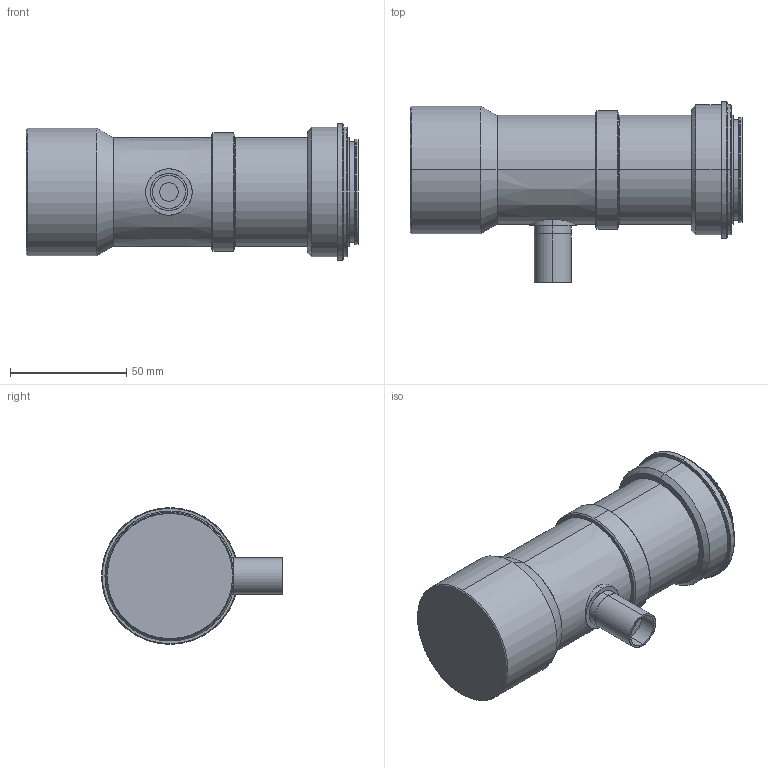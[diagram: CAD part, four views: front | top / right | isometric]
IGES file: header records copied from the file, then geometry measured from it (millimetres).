
Start section: SolidWorks IGES file using analytic representation for surfaces
Bounding box: 143.1 x 78 x 59 mm (x, y, z)
Surface area: 31295.2 mm2 (no closed solid volume)
Topology: 0 solids, 0 shells, 80 faces, 1970 edges, 1970 vertices
Faces by surface type: revolution 64, bspline 16
